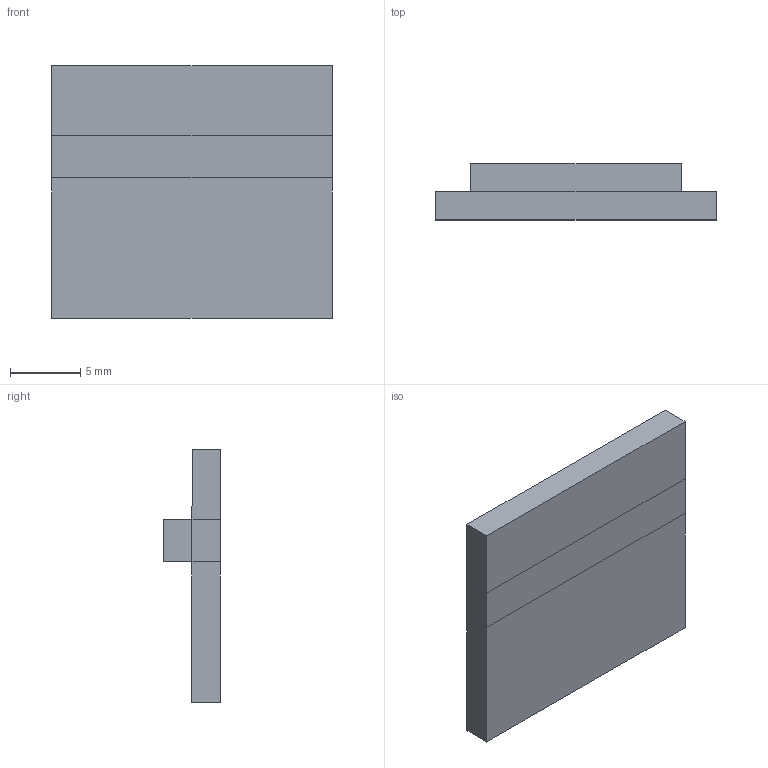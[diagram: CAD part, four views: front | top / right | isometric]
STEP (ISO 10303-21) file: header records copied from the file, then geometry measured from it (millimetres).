
FILE_DESCRIPTION (( 'STEP AP214' ), '1' );
FILE_NAME ('002352.STEP', '2022-02-21T08:19:33', ( '' ), ( '' ), 'SwSTEP 2.0', 'SolidWorks 2021', '' );
FILE_SCHEMA (( 'AUTOMOTIVE_DESIGN' ));
Length unit declared in the file: millimetre
Products named in the file (1): 002352
Bounding box: 20 x 4 x 18 mm (x, y, z)
Volume: 930 mm3; surface area: 1156 mm2
Topology: 2 solids, 2 shells, 16 faces, 36 edges, 24 vertices
Faces by surface type: plane 16
Entity records: 483 total; most frequent: CARTESIAN_POINT 77, ORIENTED_EDGE 72, DIRECTION 70, VECTOR 36, EDGE_CURVE 36, LINE 36, VERTEX_POINT 24, AXIS2_PLACEMENT_3D 17
